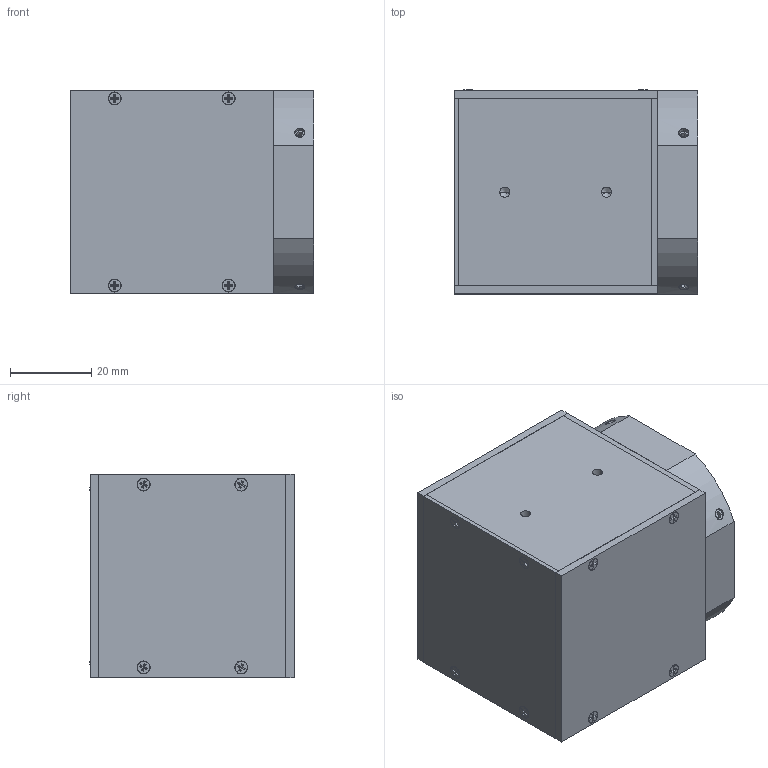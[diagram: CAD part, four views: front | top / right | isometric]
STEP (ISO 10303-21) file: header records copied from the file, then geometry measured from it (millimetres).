
FILE_DESCRIPTION( ('This file contains a STEP AP42 implementation' ,'as created by ZW3D STEP Interface translator.') ,'2;1' );
FILE_NAME( 'HLS149DWH01A_3D_RAU-TL30-M1.stp' ,'2311 9.143517', (''), ('ZWCAD Software Co.'), 'Version 1.0', 'ZW3D to STEP translator', '' );
FILE_SCHEMA(('AUTOMOTIVE_DESIGN { 1 0 10303 214 1 1 1 1 }'));
Length unit declared in the file: millimetre
Products named in the file (15): 0; HLS149DWH01A_3D_RAU-TL30-M1; LENS ADAPTER; REAR PANEL; SIDE PANEL 1; COVER_3; FRONT PANEL; COVER GLASS; MIRROR; FRAME_2; SIDE PANEL 2; MXB6332; MXB4508; MXB4729; MXB5423
Assembly tree (37 placements, depth 2):
  0
  HLS149DWH01A_3D_RAU-TL30-M1
    LENS ADAPTER
    REAR PANEL
    SIDE PANEL 1
    COVER_3
    FRONT PANEL
    COVER GLASS
    MIRROR
    FRAME_2
    SIDE PANEL 2
    MXB6332  x4
    MXB4508  x16
    MXB4729  x4
    MXB5423  x4
Bounding box: 60 x 50.2 x 50 mm (x, y, z)
Volume: 43704.7 mm3; surface area: 42042.1 mm2
Topology: 37 solids, 37 shells, 800 faces, 1988 edges, 1264 vertices
Faces by surface type: plane 500, cylinder 164, cone 128, bspline 8
Full cylindrical faces by diameter (mm): 2 x4, 3 x8
Entity records: 12572 total; most frequent: CARTESIAN_POINT 2436, DIRECTION 2089, ORIENTED_EDGE 1822, EDGE_CURVE 911, AXIS2_PLACEMENT_3D 757, VERTEX_POINT 586, VECTOR 575, LINE 575
